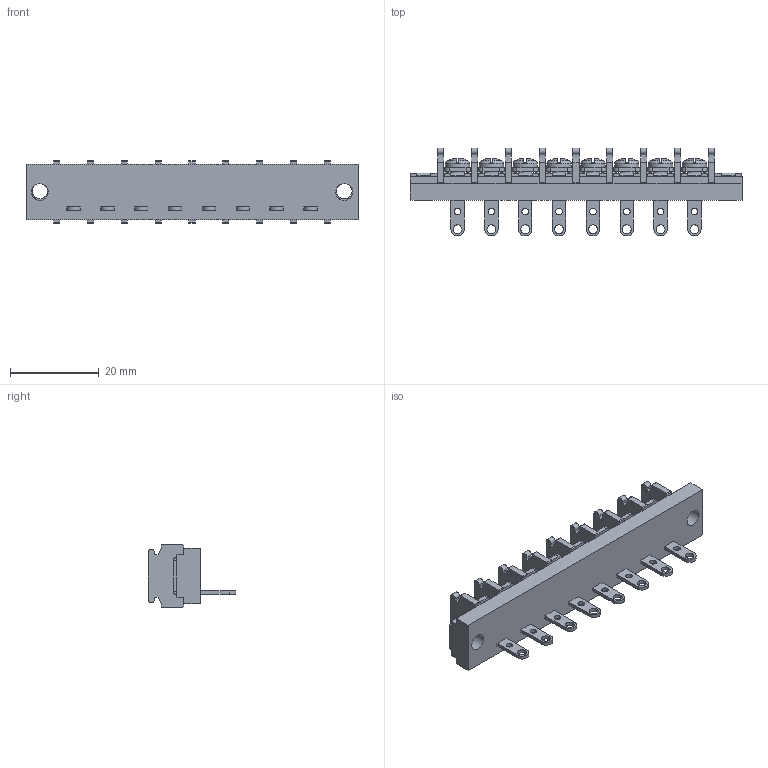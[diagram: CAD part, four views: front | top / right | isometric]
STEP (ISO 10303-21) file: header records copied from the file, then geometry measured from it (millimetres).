
FILE_DESCRIPTION(/* description */ ('Alibre Inc.'),/* implementation_level */ '2;1');
FILE_NAME(/* name */ 'export0',/* time_stamp */ '2015-10-23T20:02:14+09:00',/* author */ (''),/* organization */ (''),/* preprocessor_version */ 'ST-DEVELOPER v14',/* originating_system */ 'Alibre',/* authorisation */ '');
FILE_SCHEMA (('CONFIG_CONTROL_DESIGN'));
Length unit declared in the file: centimetre
Products named in the file (1): ID_1
Bounding box: 74.78 x 19.8 x 14 mm (x, y, z)
Volume: 6734.3 mm3; surface area: 6639.6 mm2
Topology: 1 solids, 17 shells, 1380 faces, 3764 edges, 2472 vertices
Faces by surface type: plane 1054, cylinder 158, bspline 104, cone 32, torus 16, sphere 16
Full cylindrical faces by diameter (mm): 1.5 x8, 2 x8, 3 x8, 3.5 x2, 3.8 x2, 5.5 x8
Entity records: 41417 total; most frequent: CARTESIAN_POINT 8989, ORIENTED_EDGE 7352, DIRECTION 5198, EDGE_CURVE 3676, VECTOR 2660, LINE 2660, VERTEX_POINT 2436, AXIS2_PLACEMENT_3D 1749
